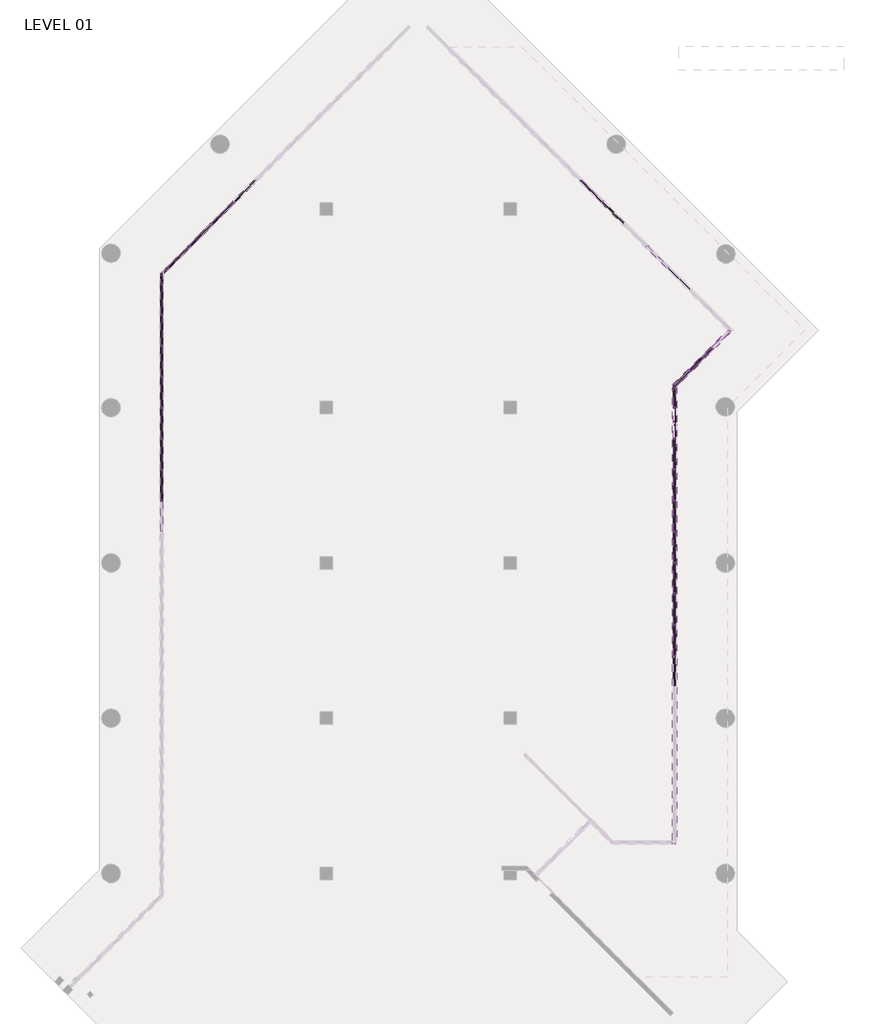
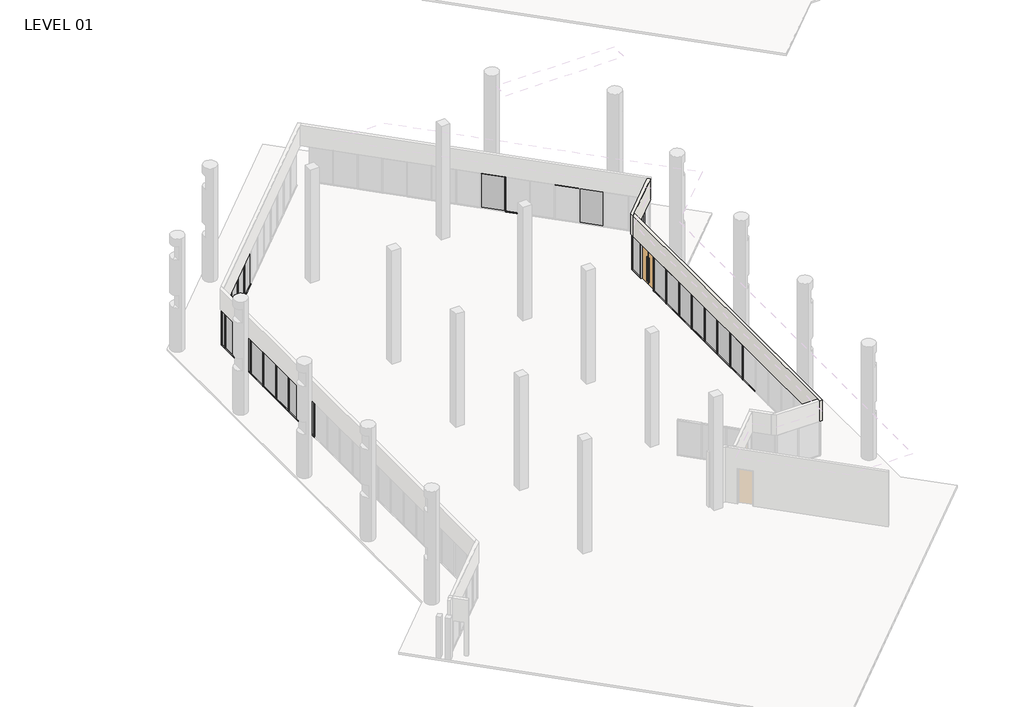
# One storey, part 4 of 24: 83 members, 26 plates, 2 walls, 1 door.
"""IFC4 building model written with IfcOpenShell, lengths in millimetres."""

from ifc_helpers import new_model, si_unit, origin, place, context, project, spatial, faceted_brep, transform, mapped, element, save
from components import curtain_wall_dbl_glass_curtain_wall_dbl_glass_dc526c47, member_16770488, member_ed5eb8ce, member_5247f267, member_e44af9ab, member_800970d4, member_1d3a199d, member_1b18ecbc, member_76371e1d, member_71e516ba, plate_ce959b8d, plate_67294edd, plate_43a54168, plate_8062c6fe, plate_53ca565f, plate_9188e7fd, plate_7efc74f4

model = new_model("IFC4")

# Units and contexts
model_context = context("Model", 3, world=origin())
ifc_project = project(units=[si_unit("LENGTHUNIT", "METRE", prefix="MILLI")], contexts=[model_context])

# Site, building, storey
site = spatial("IfcSite", under=ifc_project)
building = spatial("IfcBuilding", under=site)
storey = spatial("IfcBuildingStorey", under=building, Name="LEVEL 01", Elevation=0.0)

# Door
placement = place(None, origin())
curtain_wall_dbl_glass_curtain_wall_dbl_glass_shape = curtain_wall_dbl_glass_curtain_wall_dbl_glass_dc526c47(model_context)
element("IfcDoor", 1, ObjectType="Curtain Wall Dbl Glass : Curtain Wall Dbl Glass", at=placement, inside=storey, context=model_context, shape_type="MappedRepresentation", body=[
    mapped(curtain_wall_dbl_glass_curtain_wall_dbl_glass_shape, transform((-4602.7347164, 68185.9675885, 0.0), x_axis=(0.0, -1.0, 0.0), y_axis=(1.0, 0.0, 0.0), z_axis=(0.0, 0.0, 1.0))),
])

# Members
member_shape = member_16770488(model_context)
element("IfcMember", 2, ObjectType="Rectangular Mullion : 2\" x 4.5\" rectangular", at=placement, inside=storey, context=model_context, shape_type="MappedRepresentation", body=[
    mapped(member_shape, transform((-29793.1847164, 75444.0230911, 2590.8), x_axis=(0.0, 0.0, 1.0), y_axis=(1.0, 0.0, 0.0), z_axis=(0.0, 1.0, 0.0))),
])
member_2_shape = member_ed5eb8ce(model_context)
element("IfcMember", 3, ObjectType="Rectangular Mullion : 2\" x 4.5\" rectangular", at=placement, inside=storey, context=model_context, shape_type="MappedRepresentation", body=[
    mapped(member_2_shape, transform((-4566.8136919, 70057.0331104, 2590.8), x_axis=(0.0, 0.0, 1.0), y_axis=(-0.7071067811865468, 0.7071067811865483, 0.0), z_axis=(-0.7071067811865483, -0.7071067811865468, 0.0))),
])
element("IfcMember", 4, ObjectType="Rectangular Mullion : 2\" x 4.5\" rectangular", at=placement, inside=storey, context=model_context, shape_type="MappedRepresentation", body=[
    mapped(member_2_shape, transform((-4602.7347164, 68973.3675885, 2590.8), x_axis=(0.0, 0.0, 1.0), y_axis=(-1.0, 0.0, 0.0), z_axis=(0.0, -1.0, 0.0))),
])
member_3_shape = member_5247f267(model_context)
element("IfcMember", 5, ObjectType="Rectangular Mullion : 2\" x 4.5\" rectangular", at=placement, inside=storey, context=model_context, shape_type="MappedRepresentation", body=[
    mapped(member_3_shape, transform((-29793.1847164, 65874.5675885, 2590.8), x_axis=(0.0, 0.0, 1.0), y_axis=(1.0, 0.0, 0.0), z_axis=(0.0, 1.0, 0.0))),
])
element("IfcMember", 6, ObjectType="Rectangular Mullion : 2\" x 4.5\" rectangular", at=placement, inside=storey, context=model_context, shape_type="MappedRepresentation", body=[
    mapped(member_3_shape, transform((-29793.1847164, 68922.5675885, 2590.8), x_axis=(0.0, 0.0, 1.0), y_axis=(1.0, 0.0, 0.0), z_axis=(0.0, 1.0, 0.0))),
])
element("IfcMember", 7, ObjectType="Rectangular Mullion : 2\" x 4.5\" rectangular", at=placement, inside=storey, context=model_context, shape_type="MappedRepresentation", body=[
    mapped(member_3_shape, transform((-29793.1847164, 73494.5675885, 2590.8), x_axis=(0.0, 0.0, 1.0), y_axis=(1.0, 0.0, 0.0), z_axis=(0.0, 1.0, 0.0))),
])
element("IfcMember", 8, ObjectType="Rectangular Mullion : 2\" x 4.5\" rectangular", at=placement, inside=storey, context=model_context, shape_type="MappedRepresentation", body=[
    mapped(member_3_shape, transform((-27337.259449, 77950.7483585, 2590.8), x_axis=(0.0, 0.0, 1.0), y_axis=(0.7071067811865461, -0.707106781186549, 0.0), z_axis=(0.707106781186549, 0.7071067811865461, 0.0))),
])
element("IfcMember", 9, ObjectType="Rectangular Mullion : 2\" x 4.5\" rectangular", at=placement, inside=storey, context=model_context, shape_type="MappedRepresentation", body=[
    mapped(member_3_shape, transform((-4939.4982119, 75831.5865866, 2590.8), x_axis=(0.0, 0.0, 1.0), y_axis=(-0.7071067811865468, -0.7071067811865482, 0.0), z_axis=(0.7071067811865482, -0.7071067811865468, 0.0))),
])
element("IfcMember", 10, ObjectType="Rectangular Mullion : 2\" x 4.5\" rectangular", at=placement, inside=storey, context=model_context, shape_type="MappedRepresentation", body=[
    mapped(member_3_shape, transform((-29793.1847164, 64350.5675885, 2590.8), x_axis=(0.0, 0.0, 1.0), y_axis=(1.0, 0.0, 0.0), z_axis=(0.0, 1.0, 0.0))),
])
element("IfcMember", 11, ObjectType="Rectangular Mullion : 2\" x 4.5\" rectangular", at=placement, inside=storey, context=model_context, shape_type="MappedRepresentation", body=[
    mapped(member_3_shape, transform((-29793.1847164, 67398.5675885, 2590.8), x_axis=(0.0, 0.0, 1.0), y_axis=(1.0, 0.0, 0.0), z_axis=(0.0, 1.0, 0.0))),
])
element("IfcMember", 12, ObjectType="Rectangular Mullion : 2\" x 4.5\" rectangular", at=placement, inside=storey, context=model_context, shape_type="MappedRepresentation", body=[
    mapped(member_3_shape, transform((-29793.1847164, 70446.5675885, 2590.8), x_axis=(0.0, 0.0, 1.0), y_axis=(1.0, 0.0, 0.0), z_axis=(0.0, 1.0, 0.0))),
])
element("IfcMember", 13, ObjectType="Rectangular Mullion : 2\" x 4.5\" rectangular", at=placement, inside=storey, context=model_context, shape_type="MappedRepresentation", body=[
    mapped(member_3_shape, transform((-29793.1847164, 71970.5675885, 2590.8), x_axis=(0.0, 0.0, 1.0), y_axis=(1.0, 0.0, 0.0), z_axis=(0.0, 1.0, 0.0))),
])
element("IfcMember", 14, ObjectType="Rectangular Mullion : 2\" x 4.5\" rectangular", at=placement, inside=storey, context=model_context, shape_type="MappedRepresentation", body=[
    mapped(member_3_shape, transform((-29793.1847164, 75018.5675885, 2590.8), x_axis=(0.0, 0.0, 1.0), y_axis=(1.0, 0.0, 0.0), z_axis=(0.0, 1.0, 0.0))),
])
element("IfcMember", 15, ObjectType="Rectangular Mullion : 2\" x 4.5\" rectangular", at=placement, inside=storey, context=model_context, shape_type="MappedRepresentation", body=[
    mapped(member_3_shape, transform((-26259.6287145, 79028.3790931, 2590.8), x_axis=(0.0, 0.0, 1.0), y_axis=(0.707106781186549, -0.7071067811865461, 0.0), z_axis=(0.7071067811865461, 0.707106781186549, 0.0))),
])
element("IfcMember", 16, ObjectType="Rectangular Mullion : 2\" x 4.5\" rectangular", at=placement, inside=storey, context=model_context, shape_type="MappedRepresentation", body=[
    mapped(member_3_shape, transform((-28414.8901835, 76873.117624, 2590.8), x_axis=(0.0, 0.0, 1.0), y_axis=(0.7071067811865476, -0.7071067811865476, 0.0), z_axis=(0.7071067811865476, 0.7071067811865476, 0.0))),
])
element("IfcMember", 17, ObjectType="Rectangular Mullion : 2\" x 4.5\" rectangular", at=placement, inside=storey, context=model_context, shape_type="MappedRepresentation", body=[
    mapped(member_3_shape, transform((-8172.3904155, 79064.4787902, 2590.8), x_axis=(0.0, 0.0, 1.0), y_axis=(-0.7071067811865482, -0.7071067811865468, 0.0), z_axis=(0.7071067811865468, -0.7071067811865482, 0.0))),
])
element("IfcMember", 18, ObjectType="Rectangular Mullion : 2\" x 4.5\" rectangular", at=placement, inside=storey, context=model_context, shape_type="MappedRepresentation", body=[
    mapped(member_3_shape, transform((-4602.7347164, 64401.3675885, 2590.8), x_axis=(0.0, 0.0, 1.0), y_axis=(-1.0, 0.0, 0.0), z_axis=(0.0, -1.0, 0.0))),
])
element("IfcMember", 19, ObjectType="Rectangular Mullion : 2\" x 4.5\" rectangular", at=placement, inside=storey, context=model_context, shape_type="MappedRepresentation", body=[
    mapped(member_3_shape, transform((-4602.7347164, 61353.3675885, 2590.8), x_axis=(0.0, 0.0, 1.0), y_axis=(-1.0, 0.0, 0.0), z_axis=(0.0, -1.0, 0.0))),
])
element("IfcMember", 20, ObjectType="Rectangular Mullion : 2\" x 4.5\" rectangular", at=placement, inside=storey, context=model_context, shape_type="MappedRepresentation", body=[
    mapped(member_3_shape, transform((-4602.7347164, 59829.3675885, 2590.8), x_axis=(0.0, 0.0, 1.0), y_axis=(-1.0, 0.0, 0.0), z_axis=(0.0, -1.0, 0.0))),
])
element("IfcMember", 21, ObjectType="Rectangular Mullion : 2\" x 4.5\" rectangular", at=placement, inside=storey, context=model_context, shape_type="MappedRepresentation", body=[
    mapped(member_3_shape, transform((-4602.7347164, 56781.3675885, 2590.8), x_axis=(0.0, 0.0, 1.0), y_axis=(-1.0, 0.0, 0.0), z_axis=(0.0, -1.0, 0.0))),
])
element("IfcMember", 22, ObjectType="Rectangular Mullion : 2\" x 4.5\" rectangular", at=placement, inside=storey, context=model_context, shape_type="MappedRepresentation", body=[
    mapped(member_3_shape, transform((-4602.7347164, 62877.3675885, 2590.8), x_axis=(0.0, 0.0, 1.0), y_axis=(-1.0, 0.0, 0.0), z_axis=(0.0, -1.0, 0.0))),
])
element("IfcMember", 23, ObjectType="Rectangular Mullion : 2\" x 4.5\" rectangular", at=placement, inside=storey, context=model_context, shape_type="MappedRepresentation", body=[
    mapped(member_3_shape, transform((-4602.7347164, 65925.3675885, 2590.8), x_axis=(0.0, 0.0, 1.0), y_axis=(-1.0, 0.0, 0.0), z_axis=(0.0, -1.0, 0.0))),
])
element("IfcMember", 24, ObjectType="Rectangular Mullion : 2\" x 4.5\" rectangular", at=placement, inside=storey, context=model_context, shape_type="MappedRepresentation", body=[
    mapped(member_3_shape, transform((-4602.7347164, 67449.3675885, 2590.8), x_axis=(0.0, 0.0, 1.0), y_axis=(-1.0, 0.0, 0.0), z_axis=(0.0, -1.0, 0.0))),
])
element("IfcMember", 25, ObjectType="Rectangular Mullion : 2\" x 4.5\" rectangular", at=placement, inside=storey, context=model_context, shape_type="MappedRepresentation", body=[
    mapped(member_3_shape, transform((-4602.7347164, 58305.3675885, 2590.8), x_axis=(0.0, 0.0, 1.0), y_axis=(-1.0, 0.0, 0.0), z_axis=(0.0, -1.0, 0.0))),
])
element("IfcMember", 26, ObjectType="Rectangular Mullion : 2\" x 4.5\" rectangular", at=placement, inside=storey, context=model_context, shape_type="MappedRepresentation", body=[
    mapped(member_2_shape, transform((-3861.8635864, 70761.9832159, 0.0), x_axis=(0.0, 0.0, -1.0), y_axis=(-0.7071067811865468, 0.7071067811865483, 0.0), z_axis=(0.7071067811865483, 0.7071067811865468, 0.0))),
])
element("IfcMember", 27, ObjectType="Rectangular Mullion : 2\" x 4.5\" rectangular", at=placement, inside=storey, context=model_context, shape_type="MappedRepresentation", body=[
    mapped(member_2_shape, transform((-4602.7347164, 69970.3120859, 0.0), x_axis=(0.0, 0.0, -1.0), y_axis=(-1.0, 0.0, 0.0), z_axis=(0.0, 1.0, 0.0))),
])
element("IfcMember", 28, ObjectType="Rectangular Mullion : 2\" x 4.5\" rectangular", at=placement, inside=storey, context=model_context, shape_type="MappedRepresentation", body=[
    mapped(member_3_shape, transform((-29793.1847164, 65925.3675885, 0.0), x_axis=(0.0, 0.0, -1.0), y_axis=(1.0, 0.0, 0.0), z_axis=(0.0, -1.0, 0.0))),
])
element("IfcMember", 29, ObjectType="Rectangular Mullion : 2\" x 4.5\" rectangular", at=placement, inside=storey, context=model_context, shape_type="MappedRepresentation", body=[
    mapped(member_3_shape, transform((-29793.1847164, 68973.3675885, 0.0), x_axis=(0.0, 0.0, -1.0), y_axis=(1.0, 0.0, 0.0), z_axis=(0.0, -1.0, 0.0))),
])
element("IfcMember", 30, ObjectType="Rectangular Mullion : 2\" x 4.5\" rectangular", at=placement, inside=storey, context=model_context, shape_type="MappedRepresentation", body=[
    mapped(member_3_shape, transform((-29793.1847164, 73545.3675885, 0.0), x_axis=(0.0, 0.0, -1.0), y_axis=(1.0, 0.0, 0.0), z_axis=(0.0, -1.0, 0.0))),
])
element("IfcMember", 31, ObjectType="Rectangular Mullion : 2\" x 4.5\" rectangular", at=placement, inside=storey, context=model_context, shape_type="MappedRepresentation", body=[
    mapped(member_3_shape, transform((-27301.3384245, 77986.669383, 0.0), x_axis=(0.0, 0.0, -1.0), y_axis=(0.707106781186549, -0.7071067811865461, 0.0), z_axis=(-0.7071067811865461, -0.707106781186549, 0.0))),
])
element("IfcMember", 32, ObjectType="Rectangular Mullion : 2\" x 4.5\" rectangular", at=placement, inside=storey, context=model_context, shape_type="MappedRepresentation", body=[
    mapped(member_3_shape, transform((-29793.1847164, 64401.3675885, 0.0), x_axis=(0.0, 0.0, -1.0), y_axis=(1.0, 0.0, 0.0), z_axis=(0.0, -1.0, 0.0))),
])
element("IfcMember", 33, ObjectType="Rectangular Mullion : 2\" x 4.5\" rectangular", at=placement, inside=storey, context=model_context, shape_type="MappedRepresentation", body=[
    mapped(member_3_shape, transform((-29793.1847164, 67449.3675885, 0.0), x_axis=(0.0, 0.0, -1.0), y_axis=(1.0, 0.0, 0.0), z_axis=(0.0, -1.0, 0.0))),
])
element("IfcMember", 34, ObjectType="Rectangular Mullion : 2\" x 4.5\" rectangular", at=placement, inside=storey, context=model_context, shape_type="MappedRepresentation", body=[
    mapped(member_3_shape, transform((-29793.1847164, 70497.3675885, 0.0), x_axis=(0.0, 0.0, -1.0), y_axis=(1.0, 0.0, 0.0), z_axis=(0.0, -1.0, 0.0))),
])
element("IfcMember", 35, ObjectType="Rectangular Mullion : 2\" x 4.5\" rectangular", at=placement, inside=storey, context=model_context, shape_type="MappedRepresentation", body=[
    mapped(member_3_shape, transform((-29793.1847164, 72021.3675885, 0.0), x_axis=(0.0, 0.0, -1.0), y_axis=(1.0, 0.0, 0.0), z_axis=(0.0, -1.0, 0.0))),
])
element("IfcMember", 36, ObjectType="Rectangular Mullion : 2\" x 4.5\" rectangular", at=placement, inside=storey, context=model_context, shape_type="MappedRepresentation", body=[
    mapped(member_3_shape, transform((-26223.70769, 79064.3001175, 0.0), x_axis=(0.0, 0.0, -1.0), y_axis=(0.7071067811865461, -0.707106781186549, 0.0), z_axis=(-0.707106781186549, -0.7071067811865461, 0.0))),
])
element("IfcMember", 37, ObjectType="Rectangular Mullion : 2\" x 4.5\" rectangular", at=placement, inside=storey, context=model_context, shape_type="MappedRepresentation", body=[
    mapped(member_3_shape, transform((-28378.969159, 76909.0386485, 0.0), x_axis=(0.0, 0.0, -1.0), y_axis=(0.7071067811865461, -0.707106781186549, 0.0), z_axis=(-0.707106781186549, -0.7071067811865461, 0.0))),
])
element("IfcMember", 38, ObjectType="Rectangular Mullion : 2\" x 4.5\" rectangular", at=placement, inside=storey, context=model_context, shape_type="MappedRepresentation", body=[
    mapped(member_3_shape, transform((-29456.5998936, 75831.407914, 0.0), x_axis=(0.0, 0.0, -1.0), y_axis=(0.7071067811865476, -0.7071067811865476, 0.0), z_axis=(-0.7071067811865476, -0.7071067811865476, 0.0))),
])
element("IfcMember", 39, ObjectType="Rectangular Mullion : 2\" x 4.5\" rectangular", at=placement, inside=storey, context=model_context, shape_type="MappedRepresentation", body=[
    mapped(member_3_shape, transform((-8136.469391, 79028.5577657, 0.0), x_axis=(0.0, 0.0, -1.0), y_axis=(-0.7071067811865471, -0.7071067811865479, 0.0), z_axis=(-0.7071067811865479, 0.7071067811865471, 0.0))),
])
element("IfcMember", 40, ObjectType="Rectangular Mullion : 2\" x 4.5\" rectangular", at=placement, inside=storey, context=model_context, shape_type="MappedRepresentation", body=[
    mapped(member_3_shape, transform((-4602.7347164, 64350.5675885, 0.0), x_axis=(0.0, 0.0, -1.0), y_axis=(-1.0, 0.0, 0.0), z_axis=(0.0, 1.0, 0.0))),
])
element("IfcMember", 41, ObjectType="Rectangular Mullion : 2\" x 4.5\" rectangular", at=placement, inside=storey, context=model_context, shape_type="MappedRepresentation", body=[
    mapped(member_3_shape, transform((-4602.7347164, 61302.5675885, 0.0), x_axis=(0.0, 0.0, -1.0), y_axis=(-1.0, 0.0, 0.0), z_axis=(0.0, 1.0, 0.0))),
])
element("IfcMember", 42, ObjectType="Rectangular Mullion : 2\" x 4.5\" rectangular", at=placement, inside=storey, context=model_context, shape_type="MappedRepresentation", body=[
    mapped(member_3_shape, transform((-4602.7347164, 59778.5675885, 0.0), x_axis=(0.0, 0.0, -1.0), y_axis=(-1.0, 0.0, 0.0), z_axis=(0.0, 1.0, 0.0))),
])
element("IfcMember", 43, ObjectType="Rectangular Mullion : 2\" x 4.5\" rectangular", at=placement, inside=storey, context=model_context, shape_type="MappedRepresentation", body=[
    mapped(member_3_shape, transform((-4602.7347164, 56730.5675885, 0.0), x_axis=(0.0, 0.0, -1.0), y_axis=(-1.0, 0.0, 0.0), z_axis=(0.0, 1.0, 0.0))),
])
element("IfcMember", 44, ObjectType="Rectangular Mullion : 2\" x 4.5\" rectangular", at=placement, inside=storey, context=model_context, shape_type="MappedRepresentation", body=[
    mapped(member_3_shape, transform((-4602.7347164, 62826.5675885, 0.0), x_axis=(0.0, 0.0, -1.0), y_axis=(-1.0, 0.0, 0.0), z_axis=(0.0, 1.0, 0.0))),
])
element("IfcMember", 45, ObjectType="Rectangular Mullion : 2\" x 4.5\" rectangular", at=placement, inside=storey, context=model_context, shape_type="MappedRepresentation", body=[
    mapped(member_3_shape, transform((-4602.7347164, 65874.5675885, 0.0), x_axis=(0.0, 0.0, -1.0), y_axis=(-1.0, 0.0, 0.0), z_axis=(0.0, 1.0, 0.0))),
])
element("IfcMember", 46, ObjectType="Rectangular Mullion : 2\" x 4.5\" rectangular", at=placement, inside=storey, context=model_context, shape_type="MappedRepresentation", body=[
    mapped(member_3_shape, transform((-4602.7347164, 67398.5675885, 0.0), x_axis=(0.0, 0.0, -1.0), y_axis=(-1.0, 0.0, 0.0), z_axis=(0.0, 1.0, 0.0))),
])
element("IfcMember", 47, ObjectType="Rectangular Mullion : 2\" x 4.5\" rectangular", at=placement, inside=storey, context=model_context, shape_type="MappedRepresentation", body=[
    mapped(member_3_shape, transform((-4602.7347164, 58254.5675885, 0.0), x_axis=(0.0, 0.0, -1.0), y_axis=(-1.0, 0.0, 0.0), z_axis=(0.0, 1.0, 0.0))),
])
member_4_shape = member_e44af9ab(model_context)
element("IfcMember", 48, ObjectType="Rectangular Mullion : 2\" x 4.5\" rectangular", at=placement, inside=storey, context=model_context, shape_type="MappedRepresentation", body=[
    mapped(member_4_shape, transform((-29793.1847164, 65899.9675885, 0.0), x_axis=(0.0, 1.0, 0.0), y_axis=(1.0, 0.0, 0.0), z_axis=(0.0, 0.0, -1.0))),
])
element("IfcMember", 49, ObjectType="Rectangular Mullion : 2\" x 4.5\" rectangular", at=placement, inside=storey, context=model_context, shape_type="MappedRepresentation", body=[
    mapped(member_4_shape, transform((-29793.1847164, 68947.9675885, 0.0), x_axis=(0.0, 1.0, 0.0), y_axis=(1.0, 0.0, 0.0), z_axis=(0.0, 0.0, -1.0))),
])
element("IfcMember", 50, ObjectType="Rectangular Mullion : 2\" x 4.5\" rectangular", at=placement, inside=storey, context=model_context, shape_type="MappedRepresentation", body=[
    mapped(member_4_shape, transform((-29793.1847164, 70471.9675885, 0.0), x_axis=(0.0, 1.0, 0.0), y_axis=(1.0, 0.0, 0.0), z_axis=(0.0, 0.0, -1.0))),
])
element("IfcMember", 51, ObjectType="Rectangular Mullion : 2\" x 4.5\" rectangular", at=placement, inside=storey, context=model_context, shape_type="MappedRepresentation", body=[
    mapped(member_4_shape, transform((-29793.1847164, 73519.9675885, 0.0), x_axis=(0.0, 1.0, 0.0), y_axis=(1.0, 0.0, 0.0), z_axis=(0.0, 0.0, -1.0))),
])
element("IfcMember", 52, ObjectType="Rectangular Mullion : 2\" x 4.5\" rectangular", at=placement, inside=storey, context=model_context, shape_type="MappedRepresentation", body=[
    mapped(member_4_shape, transform((-27319.2989368, 77968.7088708, 0.0), x_axis=(0.7071067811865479, 0.7071067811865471, 0.0), y_axis=(0.7071067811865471, -0.7071067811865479, 0.0), z_axis=(0.0, 0.0, -1.0))),
])
element("IfcMember", 53, ObjectType="Rectangular Mullion : 2\" x 4.5\" rectangular", at=placement, inside=storey, context=model_context, shape_type="MappedRepresentation", body=[
    mapped(member_4_shape, transform((-3843.9030742, 70779.9437281, 0.0), x_axis=(-0.7071067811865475, -0.7071067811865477, 0.0), y_axis=(-0.7071067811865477, 0.7071067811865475, 0.0), z_axis=(0.0, 0.0, -1.0))),
])
element("IfcMember", 54, ObjectType="Rectangular Mullion : 2\" x 4.5\" rectangular", at=placement, inside=storey, context=model_context, shape_type="MappedRepresentation", body=[
    mapped(member_4_shape, transform((-29793.1847164, 64375.9675885, 0.0), x_axis=(0.0, 1.0, 0.0), y_axis=(1.0, 0.0, 0.0), z_axis=(0.0, 0.0, -1.0))),
])
element("IfcMember", 55, ObjectType="Rectangular Mullion : 2\" x 4.5\" rectangular", at=placement, inside=storey, context=model_context, shape_type="MappedRepresentation", body=[
    mapped(member_4_shape, transform((-29793.1847164, 67423.9675885, 0.0), x_axis=(0.0, 1.0, 0.0), y_axis=(1.0, 0.0, 0.0), z_axis=(0.0, 0.0, -1.0))),
])
element("IfcMember", 56, ObjectType="Rectangular Mullion : 2\" x 4.5\" rectangular", at=placement, inside=storey, context=model_context, shape_type="MappedRepresentation", body=[
    mapped(member_4_shape, transform((-29793.1847164, 71995.9675885, 0.0), x_axis=(0.0, 1.0, 0.0), y_axis=(1.0, 0.0, 0.0), z_axis=(0.0, 0.0, -1.0))),
])
element("IfcMember", 57, ObjectType="Rectangular Mullion : 2\" x 4.5\" rectangular", at=placement, inside=storey, context=model_context, shape_type="MappedRepresentation", body=[
    mapped(member_4_shape, transform((-29793.1847164, 75043.9675885, 0.0), x_axis=(0.0, 1.0, 0.0), y_axis=(1.0, 0.0, 0.0), z_axis=(0.0, 0.0, -1.0))),
])
element("IfcMember", 58, ObjectType="Rectangular Mullion : 2\" x 4.5\" rectangular", at=placement, inside=storey, context=model_context, shape_type="MappedRepresentation", body=[
    mapped(member_4_shape, transform((-26241.6682022, 79046.3396053, 0.0), x_axis=(0.7071067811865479, 0.7071067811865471, 0.0), y_axis=(0.7071067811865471, -0.7071067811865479, 0.0), z_axis=(0.0, 0.0, -1.0))),
])
element("IfcMember", 59, ObjectType="Rectangular Mullion : 2\" x 4.5\" rectangular", at=placement, inside=storey, context=model_context, shape_type="MappedRepresentation", body=[
    mapped(member_4_shape, transform((-28396.9296713, 76891.0781362, 0.0), x_axis=(0.7071067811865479, 0.7071067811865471, 0.0), y_axis=(0.7071067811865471, -0.7071067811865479, 0.0), z_axis=(0.0, 0.0, -1.0))),
])
element("IfcMember", 60, ObjectType="Rectangular Mullion : 2\" x 4.5\" rectangular", at=placement, inside=storey, context=model_context, shape_type="MappedRepresentation", body=[
    mapped(member_4_shape, transform((-29474.5604058, 75813.4474017, 0.0), x_axis=(0.7071067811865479, 0.7071067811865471, 0.0), y_axis=(0.7071067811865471, -0.7071067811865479, 0.0), z_axis=(0.0, 0.0, -1.0))),
])
element("IfcMember", 61, ObjectType="Rectangular Mullion : 2\" x 4.5\" rectangular", at=placement, inside=storey, context=model_context, shape_type="MappedRepresentation", body=[
    mapped(member_4_shape, transform((-8154.4299032, 79046.5182779, 0.0), x_axis=(0.707106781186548, -0.707106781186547, 0.0), y_axis=(-0.707106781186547, -0.707106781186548, 0.0), z_axis=(0.0, 0.0, -1.0))),
])
element("IfcMember", 62, ObjectType="Rectangular Mullion : 2\" x 4.5\" rectangular", at=placement, inside=storey, context=model_context, shape_type="MappedRepresentation", body=[
    mapped(member_4_shape, transform((-2766.2723396, 71857.5744627, 0.0), x_axis=(-0.7071067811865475, -0.7071067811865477, 0.0), y_axis=(-0.7071067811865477, 0.7071067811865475, 0.0), z_axis=(0.0, 0.0, -1.0))),
])
element("IfcMember", 63, ObjectType="Rectangular Mullion : 2\" x 4.5\" rectangular", at=placement, inside=storey, context=model_context, shape_type="MappedRepresentation", body=[
    mapped(member_4_shape, transform((-4602.7347164, 68947.9675885, 0.0), x_axis=(0.0, -1.0, 0.0), y_axis=(-1.0, 0.0, 0.0), z_axis=(0.0, 0.0, -1.0))),
])
element("IfcMember", 64, ObjectType="Rectangular Mullion : 2\" x 4.5\" rectangular", at=placement, inside=storey, context=model_context, shape_type="MappedRepresentation", body=[
    mapped(member_4_shape, transform((-4602.7347164, 64375.9675885, 0.0), x_axis=(0.0, -1.0, 0.0), y_axis=(-1.0, 0.0, 0.0), z_axis=(0.0, 0.0, -1.0))),
])
element("IfcMember", 65, ObjectType="Rectangular Mullion : 2\" x 4.5\" rectangular", at=placement, inside=storey, context=model_context, shape_type="MappedRepresentation", body=[
    mapped(member_4_shape, transform((-4602.7347164, 61327.9675885, 0.0), x_axis=(0.0, -1.0, 0.0), y_axis=(-1.0, 0.0, 0.0), z_axis=(0.0, 0.0, -1.0))),
])
element("IfcMember", 66, ObjectType="Rectangular Mullion : 2\" x 4.5\" rectangular", at=placement, inside=storey, context=model_context, shape_type="MappedRepresentation", body=[
    mapped(member_4_shape, transform((-4602.7347164, 59803.9675885, 0.0), x_axis=(0.0, -1.0, 0.0), y_axis=(-1.0, 0.0, 0.0), z_axis=(0.0, 0.0, -1.0))),
])
element("IfcMember", 67, ObjectType="Rectangular Mullion : 2\" x 4.5\" rectangular", at=placement, inside=storey, context=model_context, shape_type="MappedRepresentation", body=[
    mapped(member_4_shape, transform((-4602.7347164, 56755.9675885, 0.0), x_axis=(0.0, -1.0, 0.0), y_axis=(-1.0, 0.0, 0.0), z_axis=(0.0, 0.0, -1.0))),
])
element("IfcMember", 68, ObjectType="Rectangular Mullion : 2\" x 4.5\" rectangular", at=placement, inside=storey, context=model_context, shape_type="MappedRepresentation", body=[
    mapped(member_4_shape, transform((-4602.7347164, 62851.9675885, 0.0), x_axis=(0.0, -1.0, 0.0), y_axis=(-1.0, 0.0, 0.0), z_axis=(0.0, 0.0, -1.0))),
])
element("IfcMember", 69, ObjectType="Rectangular Mullion : 2\" x 4.5\" rectangular", at=placement, inside=storey, context=model_context, shape_type="MappedRepresentation", body=[
    mapped(member_4_shape, transform((-4602.7347164, 65899.9675885, 0.0), x_axis=(0.0, -1.0, 0.0), y_axis=(-1.0, 0.0, 0.0), z_axis=(0.0, 0.0, -1.0))),
])
element("IfcMember", 70, ObjectType="Rectangular Mullion : 2\" x 4.5\" rectangular", at=placement, inside=storey, context=model_context, shape_type="MappedRepresentation", body=[
    mapped(member_4_shape, transform((-4602.7347164, 67423.9675885, 0.0), x_axis=(0.0, -1.0, 0.0), y_axis=(-1.0, 0.0, 0.0), z_axis=(0.0, 0.0, -1.0))),
])
element("IfcMember", 71, ObjectType="Rectangular Mullion : 2\" x 4.5\" rectangular", at=placement, inside=storey, context=model_context, shape_type="MappedRepresentation", body=[
    mapped(member_4_shape, transform((-4602.7347164, 58279.9675885, 0.0), x_axis=(0.0, -1.0, 0.0), y_axis=(-1.0, 0.0, 0.0), z_axis=(0.0, 0.0, -1.0))),
])
element("IfcMember", 72, ObjectType="Rectangular Mullion : 2\" x 4.5\" rectangular", at=placement, inside=storey, context=model_context, shape_type="MappedRepresentation", body=[
    mapped(member_shape, transform((-29793.1847164, 75069.3675885, 0.0), x_axis=(0.0, 0.0, -1.0), y_axis=(1.0, 0.0, 0.0), z_axis=(0.0, -1.0, 0.0))),
])
member_5_shape = member_800970d4(model_context)
element("IfcMember", 73, ObjectType="Rectangular Mullion : 2\" x 4.5\" rectangular", at=placement, inside=storey, context=model_context, shape_type="MappedRepresentation", body=[
    mapped(member_5_shape, transform((-29793.1847164, 75494.8230911, 0.0), x_axis=(0.0, 1.0, 0.0), y_axis=(1.0, 0.0, 0.0), z_axis=(0.0, 0.0, -1.0))),
])
element("IfcMember", 74, ObjectType="Rectangular Mullion : 2\" x 4.5\" rectangular", at=placement, inside=storey, context=model_context, shape_type="MappedRepresentation", body=[
    mapped(member_5_shape, transform((-4602.7347164, 70021.1120859, 0.0), x_axis=(-0.7071067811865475, -0.7071067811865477, 0.0), y_axis=(-0.7071067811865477, 0.7071067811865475, 0.0), z_axis=(0.0, 0.0, -1.0))),
])
element("IfcMember", 75, ObjectType="Rectangular Mullion : 2\" x 4.5\" rectangular", at=placement, inside=storey, context=model_context, shape_type="MappedRepresentation", body=[
    mapped(member_5_shape, transform((-29793.1847164, 75494.8230911, 2590.8), x_axis=(-0.7071067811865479, -0.7071067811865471, 0.0), y_axis=(0.7071067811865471, -0.7071067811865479, 0.0), z_axis=(0.0, 0.0, 1.0))),
])
element("IfcMember", 76, ObjectType="Rectangular Mullion : 2\" x 4.5\" rectangular", at=placement, inside=storey, context=model_context, shape_type="MappedRepresentation", body=[
    mapped(member_5_shape, transform((-4602.7347164, 70021.1120859, 2590.8), x_axis=(0.0, 1.0, 0.0), y_axis=(-1.0, 0.0, 0.0), z_axis=(0.0, 0.0, 1.0))),
])
member_6_shape = member_1d3a199d(model_context)
element("IfcMember", 77, ObjectType="Rectangular Mullion : 2\" x 4.5\" rectangular", at=placement, inside=storey, context=model_context, shape_type="MappedRepresentation", body=[
    mapped(member_6_shape, transform((-29757.2636919, 75530.7441156, 0.0), x_axis=(0.0, 0.0, -1.0), y_axis=(0.7071067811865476, -0.7071067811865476, 0.0), z_axis=(-0.7071067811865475, -0.7071067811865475, 0.0))),
])
element("IfcMember", 78, ObjectType="Rectangular Mullion : 2\" x 4.5\" rectangular", at=placement, inside=storey, context=model_context, shape_type="MappedRepresentation", body=[
    mapped(member_6_shape, transform((-29492.5209181, 75795.4868895, 2590.8), x_axis=(0.0, 0.0, 1.0), y_axis=(0.7071067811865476, -0.7071067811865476, 0.0), z_axis=(0.7071067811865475, 0.7071067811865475, 0.0))),
])
member_7_shape = member_1b18ecbc(model_context)
element("IfcMember", 79, ObjectType="Rectangular Mullion : 2\" x 4.5\" rectangular", at=placement, inside=storey, context=model_context, shape_type="MappedRepresentation", body=[
    mapped(member_7_shape, transform((-2748.3118274, 71875.5349749, 2590.8), x_axis=(0.0, 0.0, 1.0), y_axis=(-0.7071067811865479, 0.7071067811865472, 0.0), z_axis=(-0.7071067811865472, -0.7071067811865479, 0.0))),
])
member_8_shape = member_76371e1d(model_context)
element("IfcMember", 80, ObjectType="Rectangular Mullion : 2\" x 4.5\" rectangular", at=placement, inside=storey, context=model_context, shape_type="MappedRepresentation", body=[
    mapped(member_8_shape, transform((-3825.9425619, 70797.9042404, 2590.8), x_axis=(0.0, 0.0, 1.0), y_axis=(-0.7071067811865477, 0.7071067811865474, 0.0), z_axis=(-0.7071067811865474, -0.7071067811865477, 0.0))),
])
member_9_shape = member_71e516ba(model_context)
element("IfcMember", 81, ObjectType="Rectangular Mullion : 2\" x 4.5\" rectangular", at=placement, inside=storey, context=model_context, shape_type="MappedRepresentation", body=[
    mapped(member_9_shape, transform((-2784.2328519, 71839.6139504, 0.0), x_axis=(0.0, 0.0, -1.0), y_axis=(-0.7071067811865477, 0.7071067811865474, 0.0), z_axis=(0.7071067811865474, 0.7071067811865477, 0.0))),
])
element("IfcMember", 82, ObjectType="Rectangular Mullion : 2\" x 4.5\" rectangular", at=placement, inside=storey, context=model_context, shape_type="MappedRepresentation", body=[
    mapped(member_9_shape, transform((-3216.3464529, 71407.5003495, 2590.8), x_axis=(0.0, 0.0, 1.0), y_axis=(-0.7071067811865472, 0.707106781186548, 0.0), z_axis=(-0.707106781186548, -0.7071067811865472, 0.0))),
])
element("IfcMember", 83, ObjectType="Rectangular Mullion : 2\" x 4.5\" rectangular", at=placement, inside=storey, context=model_context, shape_type="MappedRepresentation", body=[
    mapped(member_8_shape, transform((-3252.2674773, 71371.579325, 0.0), x_axis=(0.0, 0.0, -1.0), y_axis=(-0.7071067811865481, 0.7071067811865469, 0.0), z_axis=(0.7071067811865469, 0.7071067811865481, 0.0))),
])
element("IfcMember", 84, ObjectType="Rectangular Mullion : 2\" x 4.5\" rectangular", at=placement, inside=storey, context=model_context, shape_type="MappedRepresentation", body=[
    mapped(member_4_shape, transform((-3234.3069651, 71389.5398372, 0.0), x_axis=(-0.7071067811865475, -0.7071067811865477, 0.0), y_axis=(-0.7071067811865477, 0.7071067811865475, 0.0), z_axis=(0.0, 0.0, -1.0))),
])

# Plates
plate_shape = plate_ce959b8d(model_context)
element("IfcPlate", 85, ObjectType="System Panel : 1/4\" Glass", at=placement, inside=storey, context=model_context, shape_type="MappedRepresentation", body=[
    mapped(plate_shape, transform((-4602.7347164, 69471.8398372, 50.8), x_axis=(0.0, -1.0, 0.0), y_axis=(1.0, 0.0, 0.0), z_axis=(0.0, 0.0, 1.0))),
])
plate_2_shape = plate_67294edd(model_context)
element("IfcPlate", 86, ObjectType="System Panel : 1/4\" Glass", at=placement, inside=storey, context=model_context, shape_type="MappedRepresentation", body=[
    mapped(plate_2_shape, transform((-29793.1847164, 66661.9675885, 50.8), x_axis=(0.0, 1.0, 0.0), y_axis=(-1.0, 0.0, 0.0), z_axis=(0.0, 0.0, 1.0))),
])
element("IfcPlate", 87, ObjectType="System Panel : 1/4\" Glass", at=placement, inside=storey, context=model_context, shape_type="MappedRepresentation", body=[
    mapped(plate_2_shape, transform((-29793.1847164, 69709.9675885, 50.8), x_axis=(0.0, 1.0, 0.0), y_axis=(-1.0, 0.0, 0.0), z_axis=(0.0, 0.0, 1.0))),
])
element("IfcPlate", 88, ObjectType="System Panel : 1/4\" Glass", at=placement, inside=storey, context=model_context, shape_type="MappedRepresentation", body=[
    mapped(plate_2_shape, transform((-29793.1847164, 71233.9675885, 50.8), x_axis=(0.0, 1.0, 0.0), y_axis=(-1.0, 0.0, 0.0), z_axis=(0.0, 0.0, 1.0))),
])
element("IfcPlate", 89, ObjectType="System Panel : 1/4\" Glass", at=placement, inside=storey, context=model_context, shape_type="MappedRepresentation", body=[
    mapped(plate_2_shape, transform((-29793.1847164, 74281.9675885, 50.8), x_axis=(0.0, 1.0, 0.0), y_axis=(-1.0, 0.0, 0.0), z_axis=(0.0, 0.0, 1.0))),
])
element("IfcPlate", 90, ObjectType="System Panel : 1/4\" Glass", at=placement, inside=storey, context=model_context, shape_type="MappedRepresentation", body=[
    mapped(plate_2_shape, transform((-26780.4835695, 78507.524238, 50.8), x_axis=(0.7071067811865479, 0.7071067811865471, 0.0), y_axis=(-0.7071067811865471, 0.7071067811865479, 0.0), z_axis=(0.0, 0.0, 1.0))),
])
element("IfcPlate", 91, ObjectType="System Panel : 1/4\" Glass", at=placement, inside=storey, context=model_context, shape_type="MappedRepresentation", body=[
    mapped(plate_2_shape, transform((-8693.2452705, 79585.3336452, 50.8), x_axis=(0.707106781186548, -0.707106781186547, 0.0), y_axis=(0.707106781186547, 0.707106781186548, 0.0), z_axis=(0.0, 0.0, 1.0))),
])
element("IfcPlate", 92, ObjectType="System Panel : 1/4\" Glass", at=placement, inside=storey, context=model_context, shape_type="MappedRepresentation", body=[
    mapped(plate_2_shape, transform((-4382.7223324, 75274.8107071, 50.8), x_axis=(0.707106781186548, -0.707106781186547, 0.0), y_axis=(0.707106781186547, 0.707106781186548, 0.0), z_axis=(0.0, 0.0, 1.0))),
])
element("IfcPlate", 93, ObjectType="System Panel : 1/4\" Glass", at=placement, inside=storey, context=model_context, shape_type="MappedRepresentation", body=[
    mapped(plate_2_shape, transform((-29793.1847164, 65137.9675885, 50.8), x_axis=(0.0, 1.0, 0.0), y_axis=(-1.0, 0.0, 0.0), z_axis=(0.0, 0.0, 1.0))),
])
element("IfcPlate", 94, ObjectType="System Panel : 1/4\" Glass", at=placement, inside=storey, context=model_context, shape_type="MappedRepresentation", body=[
    mapped(plate_2_shape, transform((-29793.1847164, 68185.9675885, 50.8), x_axis=(0.0, 1.0, 0.0), y_axis=(-1.0, 0.0, 0.0), z_axis=(0.0, 0.0, 1.0))),
])
element("IfcPlate", 95, ObjectType="System Panel : 1/4\" Glass", at=placement, inside=storey, context=model_context, shape_type="MappedRepresentation", body=[
    mapped(plate_2_shape, transform((-29793.1847164, 72757.9675885, 50.8), x_axis=(0.0, 1.0, 0.0), y_axis=(-1.0, 0.0, 0.0), z_axis=(0.0, 0.0, 1.0))),
])
element("IfcPlate", 96, ObjectType="System Panel : 1/4\" Glass", at=placement, inside=storey, context=model_context, shape_type="MappedRepresentation", body=[
    mapped(plate_2_shape, transform((-25702.852835, 79585.1549726, 50.8), x_axis=(0.7071067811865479, 0.7071067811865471, 0.0), y_axis=(-0.7071067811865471, 0.7071067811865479, 0.0), z_axis=(0.0, 0.0, 1.0))),
])
element("IfcPlate", 97, ObjectType="System Panel : 1/4\" Glass", at=placement, inside=storey, context=model_context, shape_type="MappedRepresentation", body=[
    mapped(plate_2_shape, transform((-27858.114304, 77429.8935035, 50.8), x_axis=(0.7071067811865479, 0.7071067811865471, 0.0), y_axis=(-0.7071067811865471, 0.7071067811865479, 0.0), z_axis=(0.0, 0.0, 1.0))),
])
element("IfcPlate", 98, ObjectType="System Panel : 1/4\" Glass", at=placement, inside=storey, context=model_context, shape_type="MappedRepresentation", body=[
    mapped(plate_2_shape, transform((-28935.7450386, 76352.262769, 50.8), x_axis=(0.7071067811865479, 0.7071067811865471, 0.0), y_axis=(-0.7071067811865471, 0.7071067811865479, 0.0), z_axis=(0.0, 0.0, 1.0))),
])
element("IfcPlate", 99, ObjectType="System Panel : 1/4\" Glass", at=placement, inside=storey, context=model_context, shape_type="MappedRepresentation", body=[
    mapped(plate_2_shape, transform((-4602.7347164, 63613.9675885, 50.8), x_axis=(0.0, -1.0, 0.0), y_axis=(1.0, 0.0, 0.0), z_axis=(0.0, 0.0, 1.0))),
])
element("IfcPlate", 100, ObjectType="System Panel : 1/4\" Glass", at=placement, inside=storey, context=model_context, shape_type="MappedRepresentation", body=[
    mapped(plate_2_shape, transform((-4602.7347164, 60565.9675885, 50.8), x_axis=(0.0, -1.0, 0.0), y_axis=(1.0, 0.0, 0.0), z_axis=(0.0, 0.0, 1.0))),
])
element("IfcPlate", 101, ObjectType="System Panel : 1/4\" Glass", at=placement, inside=storey, context=model_context, shape_type="MappedRepresentation", body=[
    mapped(plate_2_shape, transform((-4602.7347164, 59041.9675885, 50.8), x_axis=(0.0, -1.0, 0.0), y_axis=(1.0, 0.0, 0.0), z_axis=(0.0, 0.0, 1.0))),
])
element("IfcPlate", 102, ObjectType="System Panel : 1/4\" Glass", at=placement, inside=storey, context=model_context, shape_type="MappedRepresentation", body=[
    mapped(plate_2_shape, transform((-4602.7347164, 62089.9675885, 50.8), x_axis=(0.0, -1.0, 0.0), y_axis=(1.0, 0.0, 0.0), z_axis=(0.0, 0.0, 1.0))),
])
element("IfcPlate", 103, ObjectType="System Panel : 1/4\" Glass", at=placement, inside=storey, context=model_context, shape_type="MappedRepresentation", body=[
    mapped(plate_2_shape, transform((-4602.7347164, 65137.9675885, 50.8), x_axis=(0.0, -1.0, 0.0), y_axis=(1.0, 0.0, 0.0), z_axis=(0.0, 0.0, 1.0))),
])
element("IfcPlate", 104, ObjectType="System Panel : 1/4\" Glass", at=placement, inside=storey, context=model_context, shape_type="MappedRepresentation", body=[
    mapped(plate_2_shape, transform((-4602.7347164, 66661.9675885, 50.8), x_axis=(0.0, -1.0, 0.0), y_axis=(1.0, 0.0, 0.0), z_axis=(0.0, 0.0, 1.0))),
])
element("IfcPlate", 105, ObjectType="System Panel : 1/4\" Glass", at=placement, inside=storey, context=model_context, shape_type="MappedRepresentation", body=[
    mapped(plate_2_shape, transform((-4602.7347164, 57517.9675885, 50.8), x_axis=(0.0, -1.0, 0.0), y_axis=(1.0, 0.0, 0.0), z_axis=(0.0, 0.0, 1.0))),
])
plate_3_shape = plate_43a54168(model_context)
element("IfcPlate", 106, ObjectType="System Panel : 1/4\" Glass", at=placement, inside=storey, context=model_context, shape_type="MappedRepresentation", body=[
    mapped(plate_3_shape, transform((-4214.3386392, 70409.5081632, 50.8), x_axis=(-0.7071067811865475, -0.7071067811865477, 0.0), y_axis=(0.7071067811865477, -0.7071067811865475, 0.0), z_axis=(0.0, 0.0, 1.0))),
])
plate_4_shape = plate_8062c6fe(model_context)
element("IfcPlate", 107, ObjectType="System Panel : 1/4\" Glass", at=placement, inside=storey, context=model_context, shape_type="MappedRepresentation", body=[
    mapped(plate_4_shape, transform((-29624.892305, 75663.1155025, 50.8), x_axis=(0.7071067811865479, 0.7071067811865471, 0.0), y_axis=(-0.7071067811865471, 0.7071067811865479, 0.0), z_axis=(0.0, 0.0, 1.0))),
])
plate_5_shape = plate_53ca565f(model_context)
element("IfcPlate", 108, ObjectType="System Panel : 1/4\" Glass", at=placement, inside=storey, context=model_context, shape_type="MappedRepresentation", body=[
    mapped(plate_5_shape, transform((-29793.1847164, 75256.6953398, 50.8), x_axis=(0.0, 1.0, 0.0), y_axis=(-1.0, 0.0, 0.0), z_axis=(0.0, 0.0, 1.0))),
])
plate_6_shape = plate_9188e7fd(model_context)
element("IfcPlate", 109, ObjectType="System Panel : 1/4\" Glass", at=placement, inside=storey, context=model_context, shape_type="MappedRepresentation", body=[
    mapped(plate_6_shape, transform((-3000.2896524, 71623.5571499, 50.8), x_axis=(-0.7071067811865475, -0.7071067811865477, 0.0), y_axis=(0.7071067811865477, -0.7071067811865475, 0.0), z_axis=(0.0, 0.0, 1.0))),
])
plate_7_shape = plate_7efc74f4(model_context)
element("IfcPlate", 110, ObjectType="System Panel : 1/4\" Glass", at=placement, inside=storey, context=model_context, shape_type="MappedRepresentation", body=[
    mapped(plate_7_shape, transform((-3539.1050196, 71084.7417827, 50.8), x_axis=(-0.7071067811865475, -0.7071067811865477, 0.0), y_axis=(0.7071067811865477, -0.7071067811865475, 0.0), z_axis=(0.0, 0.0, 1.0))),
])

# Walls
element("IfcWall", 111, ObjectType="8\" Existing Wall", at=placement, inside=storey, context=model_context, shape_type="Brep", body=[
    faceted_brep([(-2009.5633117, 72757.9675885, 2590.8), (-4704.3347164, 70063.1961839, 2590.8), (-4704.3347164, 70063.1961839, 4089.4), (-2009.5633117, 72757.9675885, 4089.4), (-1865.8792138, 72614.2834906, 2590.8), (-1865.8792138, 72614.2834906, 4089.4), (-4501.1347164, 69979.027988, 4089.4), (-4704.3347164, 69775.827988, 4089.4), (-4704.3347164, 69775.827988, 2590.8), (-4501.1347164, 69979.027988, 2590.8)], [[[0, 1, 2, 3]], [[4, 5, 6, 7, 8, 9]], [[1, 0, 4, 9, 8]], [[3, 2, 7, 6, 5]], [[0, 3, 5, 4]], [[2, 1, 8, 7]]]),
])
element("IfcWall", 112, ObjectType="8\" Existing Wall", at=placement, inside=storey, context=model_context, shape_type="Brep", body=[
    faceted_brep([(-4704.3347164, 69775.827988, 2590.8), (-4704.3347164, 47713.5675885, 2590.8), (-4704.3347164, 47510.3675885, 2590.8), (-4704.3347164, 47510.3675885, 4089.4), (-4704.3347164, 47713.5675885, 4089.4), (-4704.3347164, 69775.827988, 4089.4), (-4501.1347164, 69979.027988, 2590.8), (-4501.1347164, 69979.027988, 4089.4), (-4501.1347164, 47510.3675885, 4089.4), (-4501.1347164, 47510.3675885, 2590.8)], [[[0, 1, 2, 3, 4, 5]], [[6, 7, 8, 9]], [[2, 1, 0, 6, 9]], [[5, 4, 3, 8, 7]], [[0, 5, 7, 6]], [[3, 2, 9, 8]]]),
])

save(model, "model.ifc")
